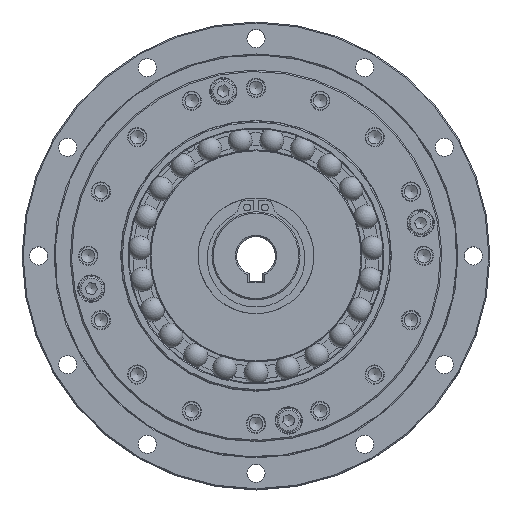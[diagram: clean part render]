
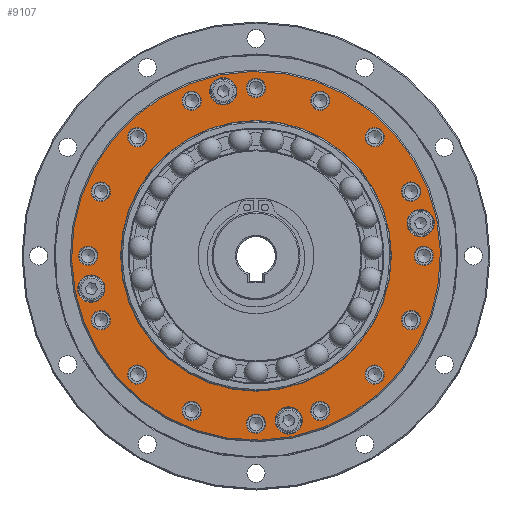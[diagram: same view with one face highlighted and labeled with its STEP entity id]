
A CAD part, top view. The second image highlights one B-rep face of the part: STEP entity #9107.
In plain terms, the highlighted planar face has unit normal (0, 0, 1).
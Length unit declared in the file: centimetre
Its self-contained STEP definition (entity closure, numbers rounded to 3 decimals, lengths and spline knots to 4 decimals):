
#1013=PLANE($,#10376);
#1329=FACE_BOUND($,#2758,.T.);
#1330=FACE_BOUND($,#2759,.T.);
#1331=FACE_BOUND($,#2760,.T.);
#1332=FACE_BOUND($,#2761,.T.);
#1333=FACE_BOUND($,#2762,.T.);
#1334=FACE_BOUND($,#2763,.T.);
#1335=FACE_BOUND($,#2764,.T.);
#1336=FACE_BOUND($,#2765,.T.);
#1337=FACE_BOUND($,#2766,.T.);
#1338=FACE_BOUND($,#2767,.T.);
#1339=FACE_BOUND($,#2768,.T.);
#1340=FACE_BOUND($,#2769,.T.);
#1341=FACE_BOUND($,#2770,.T.);
#1342=FACE_BOUND($,#2771,.T.);
#1343=FACE_BOUND($,#2772,.T.);
#1344=FACE_BOUND($,#2773,.T.);
#1345=FACE_BOUND($,#2774,.T.);
#1346=FACE_BOUND($,#2775,.T.);
#1347=FACE_BOUND($,#2776,.T.);
#1348=FACE_BOUND($,#2777,.T.);
#1349=FACE_BOUND($,#2778,.T.);
#1350=FACE_BOUND($,#2779,.T.);
#2758=EDGE_LOOP($,(#7520));
#2759=EDGE_LOOP($,(#7521));
#2760=EDGE_LOOP($,(#7522));
#2761=EDGE_LOOP($,(#7523));
#2762=EDGE_LOOP($,(#7524));
#2763=EDGE_LOOP($,(#7525));
#2764=EDGE_LOOP($,(#7526));
#2765=EDGE_LOOP($,(#7527));
#2766=EDGE_LOOP($,(#7528));
#2767=EDGE_LOOP($,(#7529));
#2768=EDGE_LOOP($,(#7530));
#2769=EDGE_LOOP($,(#7531));
#2770=EDGE_LOOP($,(#7532));
#2771=EDGE_LOOP($,(#7533));
#2772=EDGE_LOOP($,(#7534));
#2773=EDGE_LOOP($,(#7535));
#2774=EDGE_LOOP($,(#7536));
#2775=EDGE_LOOP($,(#7537));
#2776=EDGE_LOOP($,(#7538));
#2777=EDGE_LOOP($,(#7539));
#2778=EDGE_LOOP($,(#7540));
#2779=EDGE_LOOP($,(#7541));
#3631=CIRCLE($,#10265,6.7);
#3649=CIRCLE($,#10301,0.495);
#3651=CIRCLE($,#10305,0.35);
#3653=CIRCLE($,#10309,0.35);
#3655=CIRCLE($,#10313,0.35);
#3657=CIRCLE($,#10317,0.35);
#3659=CIRCLE($,#10321,0.495);
#3661=CIRCLE($,#10325,0.35);
#3663=CIRCLE($,#10329,0.35);
#3665=CIRCLE($,#10333,0.35);
#3667=CIRCLE($,#10337,0.35);
#3669=CIRCLE($,#10341,0.495);
#3671=CIRCLE($,#10345,0.35);
#3673=CIRCLE($,#10349,0.35);
#3675=CIRCLE($,#10353,0.35);
#3677=CIRCLE($,#10357,0.35);
#3679=CIRCLE($,#10361,0.495);
#3681=CIRCLE($,#10365,0.35);
#3683=CIRCLE($,#10369,0.35);
#3685=CIRCLE($,#10373,0.35);
#3687=CIRCLE($,#10377,4.9189);
#3688=CIRCLE($,#10378,0.35);
#4374=VERTEX_POINT($,#15921);
#4392=VERTEX_POINT($,#15975);
#4394=VERTEX_POINT($,#15981);
#4396=VERTEX_POINT($,#15987);
#4398=VERTEX_POINT($,#15993);
#4400=VERTEX_POINT($,#15999);
#4402=VERTEX_POINT($,#16005);
#4404=VERTEX_POINT($,#16011);
#4406=VERTEX_POINT($,#16017);
#4408=VERTEX_POINT($,#16023);
#4410=VERTEX_POINT($,#16029);
#4412=VERTEX_POINT($,#16035);
#4414=VERTEX_POINT($,#16041);
#4416=VERTEX_POINT($,#16047);
#4418=VERTEX_POINT($,#16053);
#4420=VERTEX_POINT($,#16059);
#4422=VERTEX_POINT($,#16065);
#4424=VERTEX_POINT($,#16071);
#4426=VERTEX_POINT($,#16077);
#4428=VERTEX_POINT($,#16083);
#4430=VERTEX_POINT($,#16089);
#4431=VERTEX_POINT($,#16091);
#5437=EDGE_CURVE($,#4374,#4374,#3631,.T.);
#5455=EDGE_CURVE($,#4392,#4392,#3649,.T.);
#5457=EDGE_CURVE($,#4394,#4394,#3651,.T.);
#5459=EDGE_CURVE($,#4396,#4396,#3653,.T.);
#5461=EDGE_CURVE($,#4398,#4398,#3655,.T.);
#5463=EDGE_CURVE($,#4400,#4400,#3657,.T.);
#5465=EDGE_CURVE($,#4402,#4402,#3659,.T.);
#5467=EDGE_CURVE($,#4404,#4404,#3661,.T.);
#5469=EDGE_CURVE($,#4406,#4406,#3663,.T.);
#5471=EDGE_CURVE($,#4408,#4408,#3665,.T.);
#5473=EDGE_CURVE($,#4410,#4410,#3667,.T.);
#5475=EDGE_CURVE($,#4412,#4412,#3669,.T.);
#5477=EDGE_CURVE($,#4414,#4414,#3671,.T.);
#5479=EDGE_CURVE($,#4416,#4416,#3673,.T.);
#5481=EDGE_CURVE($,#4418,#4418,#3675,.T.);
#5483=EDGE_CURVE($,#4420,#4420,#3677,.T.);
#5485=EDGE_CURVE($,#4422,#4422,#3679,.T.);
#5487=EDGE_CURVE($,#4424,#4424,#3681,.T.);
#5489=EDGE_CURVE($,#4426,#4426,#3683,.T.);
#5491=EDGE_CURVE($,#4428,#4428,#3685,.T.);
#5493=EDGE_CURVE($,#4430,#4430,#3687,.T.);
#5494=EDGE_CURVE($,#4431,#4431,#3688,.T.);
#7520=ORIENTED_EDGE($,*,*,#5493,.T.);
#7521=ORIENTED_EDGE($,*,*,#5491,.F.);
#7522=ORIENTED_EDGE($,*,*,#5487,.F.);
#7523=ORIENTED_EDGE($,*,*,#5483,.F.);
#7524=ORIENTED_EDGE($,*,*,#5479,.F.);
#7525=ORIENTED_EDGE($,*,*,#5475,.F.);
#7526=ORIENTED_EDGE($,*,*,#5471,.F.);
#7527=ORIENTED_EDGE($,*,*,#5467,.F.);
#7528=ORIENTED_EDGE($,*,*,#5463,.F.);
#7529=ORIENTED_EDGE($,*,*,#5459,.F.);
#7530=ORIENTED_EDGE($,*,*,#5455,.F.);
#7531=ORIENTED_EDGE($,*,*,#5437,.F.);
#7532=ORIENTED_EDGE($,*,*,#5457,.F.);
#7533=ORIENTED_EDGE($,*,*,#5461,.F.);
#7534=ORIENTED_EDGE($,*,*,#5465,.F.);
#7535=ORIENTED_EDGE($,*,*,#5469,.F.);
#7536=ORIENTED_EDGE($,*,*,#5473,.F.);
#7537=ORIENTED_EDGE($,*,*,#5477,.F.);
#7538=ORIENTED_EDGE($,*,*,#5481,.F.);
#7539=ORIENTED_EDGE($,*,*,#5485,.F.);
#7540=ORIENTED_EDGE($,*,*,#5489,.F.);
#7541=ORIENTED_EDGE($,*,*,#5494,.F.);
#9107=ADVANCED_FACE($,(#1329,#1330,#1331,#1332,#1333,#1334,#1335,#1336,
#1337,#1338,#1339,#1340,#1341,#1342,#1343,#1344,#1345,#1346,#1347,#1348,
#1349,#1350),#1013,.T.);
#10265=AXIS2_PLACEMENT_3D($,#15922,#12772,#12773);
#10301=AXIS2_PLACEMENT_3D($,#15976,#12844,#12845);
#10305=AXIS2_PLACEMENT_3D($,#15982,#12852,#12853);
#10309=AXIS2_PLACEMENT_3D($,#15988,#12860,#12861);
#10313=AXIS2_PLACEMENT_3D($,#15994,#12868,#12869);
#10317=AXIS2_PLACEMENT_3D($,#16000,#12876,#12877);
#10321=AXIS2_PLACEMENT_3D($,#16006,#12884,#12885);
#10325=AXIS2_PLACEMENT_3D($,#16012,#12892,#12893);
#10329=AXIS2_PLACEMENT_3D($,#16018,#12900,#12901);
#10333=AXIS2_PLACEMENT_3D($,#16024,#12908,#12909);
#10337=AXIS2_PLACEMENT_3D($,#16030,#12916,#12917);
#10341=AXIS2_PLACEMENT_3D($,#16036,#12924,#12925);
#10345=AXIS2_PLACEMENT_3D($,#16042,#12932,#12933);
#10349=AXIS2_PLACEMENT_3D($,#16048,#12940,#12941);
#10353=AXIS2_PLACEMENT_3D($,#16054,#12948,#12949);
#10357=AXIS2_PLACEMENT_3D($,#16060,#12956,#12957);
#10361=AXIS2_PLACEMENT_3D($,#16066,#12964,#12965);
#10365=AXIS2_PLACEMENT_3D($,#16072,#12972,#12973);
#10369=AXIS2_PLACEMENT_3D($,#16078,#12980,#12981);
#10373=AXIS2_PLACEMENT_3D($,#16084,#12988,#12989);
#10376=AXIS2_PLACEMENT_3D($,#16088,#12994,#12995);
#10377=AXIS2_PLACEMENT_3D($,#16090,#12996,#12997);
#10378=AXIS2_PLACEMENT_3D($,#16092,#12998,#12999);
#12772=DIRECTION('center_axis',(0.,0.,-1.));
#12773=DIRECTION('ref_axis',(-0.981,-0.195,0.));
#12844=DIRECTION('center_axis',(0.,0.,1.));
#12845=DIRECTION('ref_axis',(-0.195,0.981,0.));
#12852=DIRECTION('center_axis',(0.,0.,1.));
#12853=DIRECTION('ref_axis',(-0.195,0.981,0.));
#12860=DIRECTION('center_axis',(0.,0.,1.));
#12861=DIRECTION('ref_axis',(-0.195,0.981,0.));
#12868=DIRECTION('center_axis',(0.,0.,1.));
#12869=DIRECTION('ref_axis',(-0.195,0.981,0.));
#12876=DIRECTION('center_axis',(0.,0.,1.));
#12877=DIRECTION('ref_axis',(-0.195,0.981,0.));
#12884=DIRECTION('center_axis',(0.,0.,1.));
#12885=DIRECTION('ref_axis',(-0.195,0.981,0.));
#12892=DIRECTION('center_axis',(0.,0.,1.));
#12893=DIRECTION('ref_axis',(-0.195,0.981,0.));
#12900=DIRECTION('center_axis',(0.,0.,1.));
#12901=DIRECTION('ref_axis',(-0.195,0.981,0.));
#12908=DIRECTION('center_axis',(0.,0.,1.));
#12909=DIRECTION('ref_axis',(-0.195,0.981,0.));
#12916=DIRECTION('center_axis',(0.,0.,1.));
#12917=DIRECTION('ref_axis',(-0.195,0.981,0.));
#12924=DIRECTION('center_axis',(0.,0.,1.));
#12925=DIRECTION('ref_axis',(-0.195,0.981,0.));
#12932=DIRECTION('center_axis',(0.,0.,1.));
#12933=DIRECTION('ref_axis',(-0.195,0.981,0.));
#12940=DIRECTION('center_axis',(0.,0.,1.));
#12941=DIRECTION('ref_axis',(-0.195,0.981,0.));
#12948=DIRECTION('center_axis',(0.,0.,1.));
#12949=DIRECTION('ref_axis',(-0.195,0.981,0.));
#12956=DIRECTION('center_axis',(0.,0.,1.));
#12957=DIRECTION('ref_axis',(-0.195,0.981,0.));
#12964=DIRECTION('center_axis',(0.,0.,1.));
#12965=DIRECTION('ref_axis',(-0.195,0.981,0.));
#12972=DIRECTION('center_axis',(0.,0.,1.));
#12973=DIRECTION('ref_axis',(-0.195,0.981,0.));
#12980=DIRECTION('center_axis',(0.,0.,1.));
#12981=DIRECTION('ref_axis',(-0.195,0.981,0.));
#12988=DIRECTION('center_axis',(0.,0.,1.));
#12989=DIRECTION('ref_axis',(-0.195,0.981,0.));
#12994=DIRECTION('center_axis',(0.,0.,1.));
#12995=DIRECTION('ref_axis',(0.195,-0.981,0.));
#12996=DIRECTION('center_axis',(0.,0.,
-1.));
#12997=DIRECTION('ref_axis',(1.,0.,0.));
#12998=DIRECTION('center_axis',(0.,0.,1.));
#12999=DIRECTION('ref_axis',(-0.195,0.981,0.));
#15921=CARTESIAN_POINT('',(6.5713,1.3071,4.55));
#15922=CARTESIAN_POINT('Origin',(0.,0.,4.55));
#15975=CARTESIAN_POINT('',(-5.8862,-1.6755,4.55));
#15976=CARTESIAN_POINT('Origin',(-5.9828,-1.1901,4.55));
#15981=CARTESIAN_POINT('',(-5.5674,-2.6776,4.55));
#15982=CARTESIAN_POINT('Origin',(-5.6357,-2.3344,4.55));
#15987=CARTESIAN_POINT('',(-4.2451,-4.6566,4.55));
#15988=CARTESIAN_POINT('Origin',(-4.3134,-4.3134,4.55));
#15993=CARTESIAN_POINT('',(-2.2661,-5.9789,4.55));
#15994=CARTESIAN_POINT('Origin',(-2.3344,-5.6357,4.55));
#15999=CARTESIAN_POINT('',(0.0683,-6.4433,4.55));
#16000=CARTESIAN_POINT('Origin',(0.,-6.1,4.55));
#16005=CARTESIAN_POINT('',(1.2866,-6.4683,4.55));
#16006=CARTESIAN_POINT('Origin',(1.1901,-5.9828,4.55));
#16011=CARTESIAN_POINT('',(2.4027,-5.9789,4.55));
#16012=CARTESIAN_POINT('Origin',(2.3344,-5.6357,4.55));
#16017=CARTESIAN_POINT('',(4.3816,-4.6566,4.55));
#16018=CARTESIAN_POINT('Origin',(4.3134,-4.3134,4.55));
#16023=CARTESIAN_POINT('',(5.7039,-2.6776,4.55));
#16024=CARTESIAN_POINT('Origin',(5.6357,-2.3344,4.55));
#16029=CARTESIAN_POINT('',(6.1683,-0.3433,4.55));
#16030=CARTESIAN_POINT('Origin',(6.1,0.,4.55));
#16035=CARTESIAN_POINT('',(6.0794,0.7046,4.55));
#16036=CARTESIAN_POINT('Origin',(5.9828,1.1901,4.55));
#16041=CARTESIAN_POINT('',(5.7039,1.9911,4.55));
#16042=CARTESIAN_POINT('Origin',(5.6357,2.3344,4.55));
#16047=CARTESIAN_POINT('',(4.3816,3.9701,4.55));
#16048=CARTESIAN_POINT('Origin',(4.3134,4.3134,4.55));
#16053=CARTESIAN_POINT('',(2.4027,5.2924,4.55));
#16054=CARTESIAN_POINT('Origin',(2.3344,5.6357,4.55));
#16059=CARTESIAN_POINT('',(0.0683,5.7567,4.55));
#16060=CARTESIAN_POINT('Origin',(0.,6.1,4.55));
#16065=CARTESIAN_POINT('',(-1.0935,5.4973,4.55));
#16066=CARTESIAN_POINT('Origin',(-1.1901,5.9828,4.55));
#16071=CARTESIAN_POINT('',(-2.2661,5.2924,4.55));
#16072=CARTESIAN_POINT('Origin',(-2.3344,5.6357,4.55));
#16077=CARTESIAN_POINT('',(-4.2451,3.9701,4.55));
#16078=CARTESIAN_POINT('Origin',(-4.3134,4.3134,4.55));
#16083=CARTESIAN_POINT('',(-5.5674,1.9911,4.55));
#16084=CARTESIAN_POINT('Origin',(-5.6357,2.3344,4.55));
#16088=CARTESIAN_POINT('Origin',(6.6301,1.3188,4.55));
#16089=CARTESIAN_POINT('',(0.,4.9189,4.55));
#16090=CARTESIAN_POINT('Origin',(0.,0.,
4.55));
#16091=CARTESIAN_POINT('',(-6.0317,-0.3433,4.55));
#16092=CARTESIAN_POINT('Origin',(-6.1,0.,4.55));
